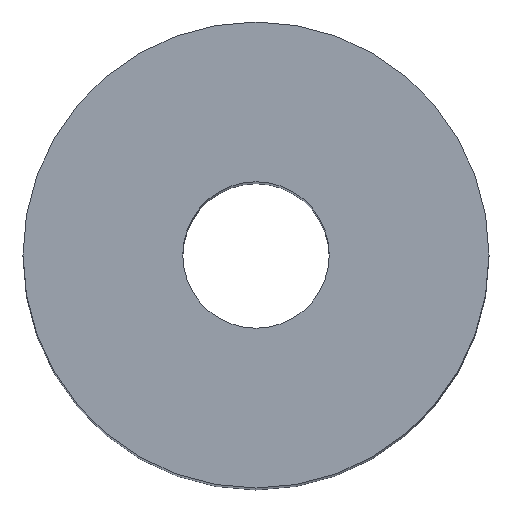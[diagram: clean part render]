
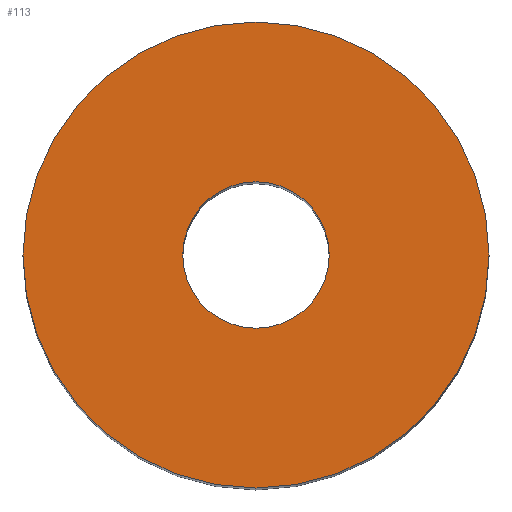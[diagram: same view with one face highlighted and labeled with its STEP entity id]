
A CAD part, top view. The second image highlights one B-rep face of the part: STEP entity #113.
In plain terms, the highlighted planar face has unit normal (0, 0, 1).
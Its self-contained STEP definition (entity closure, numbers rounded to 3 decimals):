
#113=ADVANCED_FACE('',(#121,#122),#119,.T.);
#119=PLANE('',#190);
#121=FACE_BOUND('',#125,.T.);
#122=FACE_BOUND('',#126,.T.);
#125=EDGE_LOOP('',(#133,#134));
#126=EDGE_LOOP('',(#135,#136));
#133=ORIENTED_EDGE('',*,*,#165,.T.);
#134=ORIENTED_EDGE('',*,*,#166,.T.);
#135=ORIENTED_EDGE('',*,*,#167,.F.);
#136=ORIENTED_EDGE('',*,*,#168,.F.);
#157=VERTEX_POINT('',#236);
#158=VERTEX_POINT('',#237);
#159=VERTEX_POINT('',#240);
#160=VERTEX_POINT('',#241);
#165=EDGE_CURVE('',#157,#158,#177,.T.);
#166=EDGE_CURVE('',#158,#157,#178,.T.);
#167=EDGE_CURVE('',#159,#160,#179,.T.);
#168=EDGE_CURVE('',#160,#159,#180,.T.);
#177=CIRCLE('',#186,35.);
#178=CIRCLE('',#187,35.);
#179=CIRCLE('',#188,11.);
#180=CIRCLE('',#189,11.);
#186=AXIS2_PLACEMENT_3D('',#235,#202,#203);
#187=AXIS2_PLACEMENT_3D('',#238,#204,#205);
#188=AXIS2_PLACEMENT_3D('',#239,#206,#207);
#189=AXIS2_PLACEMENT_3D('',#242,#208,#209);
#190=AXIS2_PLACEMENT_3D('',#243,#210,#211);
#202=DIRECTION('',(0.,0.,1.));
#203=DIRECTION('',(0.,1.,0.));
#204=DIRECTION('',(0.,0.,1.));
#205=DIRECTION('',(0.,-1.,0.));
#206=DIRECTION('',(0.,0.,1.));
#207=DIRECTION('',(0.,-1.,0.));
#208=DIRECTION('',(0.,0.,1.));
#209=DIRECTION('',(0.,1.,0.));
#210=DIRECTION('',(0.,0.,1.));
#211=DIRECTION('',(0.,1.,0.));
#235=CARTESIAN_POINT('',(0.,0.,170.));
#236=CARTESIAN_POINT('',(-35.,0.,170.));
#237=CARTESIAN_POINT('',(35.,0.,170.));
#238=CARTESIAN_POINT('',(0.,0.,170.));
#239=CARTESIAN_POINT('',(0.,0.,170.));
#240=CARTESIAN_POINT('',(11.,0.,170.));
#241=CARTESIAN_POINT('',(-11.,0.,170.));
#242=CARTESIAN_POINT('',(0.,0.,170.));
#243=CARTESIAN_POINT('',(0.,0.,170.));
